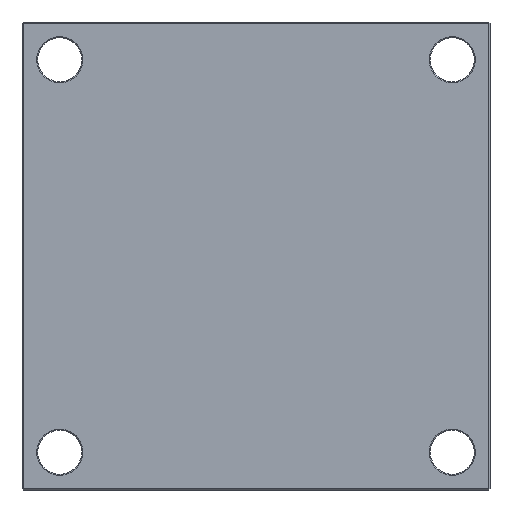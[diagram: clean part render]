
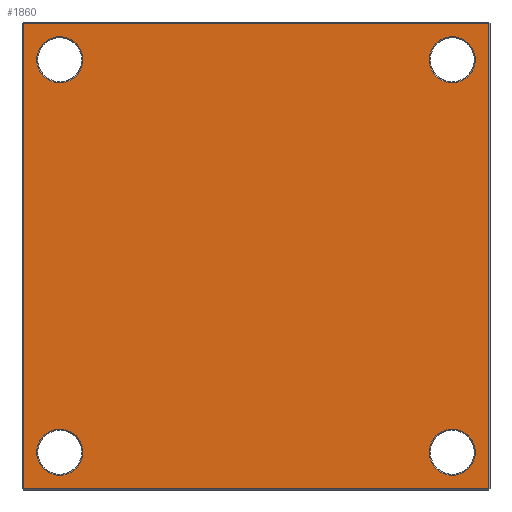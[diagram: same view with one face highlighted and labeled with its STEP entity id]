
A CAD part, front view. The second image highlights one B-rep face of the part: STEP entity #1860.
In plain terms, the highlighted planar face has unit normal (0, -1, 0).
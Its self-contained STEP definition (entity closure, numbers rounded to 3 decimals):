
#42 = AXIS2_PLACEMENT_3D ( 'NONE', #1561, #312, #382 ) ;
#59 = DIRECTION ( 'NONE',  ( 0., 0., 1. ) ) ;
#70 = VERTEX_POINT ( 'NONE', #680 ) ;
#105 = EDGE_LOOP ( 'NONE', ( #1662, #1757 ) ) ;
#134 = LINE ( 'NONE', #1093, #220 ) ;
#135 = EDGE_CURVE ( 'NONE', #861, #1630, #1424, .T. ) ;
#167 = DIRECTION ( 'NONE',  ( 0., 1., 0. ) ) ;
#177 = EDGE_CURVE ( 'NONE', #1219, #565, #1989, .T. ) ;
#220 = VECTOR ( 'NONE', #1154, 1000. ) ;
#235 = ORIENTED_EDGE ( 'NONE', *, *, #687, .T. ) ;
#237 = PLANE ( 'NONE',  #766 ) ;
#260 = CARTESIAN_POINT ( 'NONE',  ( 0., 0., 0. ) ) ;
#271 = DIRECTION ( 'NONE',  ( 0., 0., 1. ) ) ;
#300 = ORIENTED_EDGE ( 'NONE', *, *, #1357, .T. ) ;
#312 = DIRECTION ( 'NONE',  ( 0., 1., 0. ) ) ;
#363 = VERTEX_POINT ( 'NONE', #1949 ) ;
#368 = ORIENTED_EDGE ( 'NONE', *, *, #135, .T. ) ;
#380 = VERTEX_POINT ( 'NONE', #2015 ) ;
#382 = DIRECTION ( 'NONE',  ( 0., 0., 1. ) ) ;
#398 = VERTEX_POINT ( 'NONE', #2099 ) ;
#399 = VERTEX_POINT ( 'NONE', #1789 ) ;
#410 = CIRCLE ( 'NONE', #1693, 22. ) ;
#414 = CARTESIAN_POINT ( 'NONE',  ( -187., 0., -187. ) ) ;
#427 = EDGE_CURVE ( 'NONE', #398, #861, #881, .T. ) ;
#469 = CARTESIAN_POINT ( 'NONE',  ( -187., 0., 209. ) ) ;
#507 = DIRECTION ( 'NONE',  ( 0., 1., 0. ) ) ;
#511 = ORIENTED_EDGE ( 'NONE', *, *, #1319, .T. ) ;
#538 = EDGE_CURVE ( 'NONE', #399, #398, #134, .T. ) ;
#545 = CARTESIAN_POINT ( 'NONE',  ( 187., 0., 165. ) ) ;
#546 = VERTEX_POINT ( 'NONE', #1163 ) ;
#552 = FACE_BOUND ( 'NONE', #105, .T. ) ;
#562 = ORIENTED_EDGE ( 'NONE', *, *, #427, .T. ) ;
#565 = VERTEX_POINT ( 'NONE', #1200 ) ;
#570 = EDGE_LOOP ( 'NONE', ( #1270, #1351 ) ) ;
#590 = EDGE_CURVE ( 'NONE', #70, #1070, #1388, .T. ) ;
#608 = FACE_BOUND ( 'NONE', #570, .T. ) ;
#680 = CARTESIAN_POINT ( 'NONE',  ( 187., 0., 209. ) ) ;
#687 = EDGE_CURVE ( 'NONE', #1630, #399, #795, .T. ) ;
#692 = AXIS2_PLACEMENT_3D ( 'NONE', #1504, #1520, #1820 ) ;
#696 = CARTESIAN_POINT ( 'NONE',  ( 0., 0., -222. ) ) ;
#701 = CARTESIAN_POINT ( 'NONE',  ( -187., 0., 187. ) ) ;
#707 = FACE_OUTER_BOUND ( 'NONE', #1108, .T. ) ;
#724 = CARTESIAN_POINT ( 'NONE',  ( 222., 0., 0. ) ) ;
#745 = DIRECTION ( 'NONE',  ( 0., 0., 1. ) ) ;
#752 = VECTOR ( 'NONE', #745, 1000. ) ;
#758 = DIRECTION ( 'NONE',  ( 1., 0., 0. ) ) ;
#766 = AXIS2_PLACEMENT_3D ( 'NONE', #260, #167, #271 ) ;
#795 = LINE ( 'NONE', #1405, #1571 ) ;
#816 = EDGE_CURVE ( 'NONE', #380, #363, #1786, .T. ) ;
#824 = DIRECTION ( 'NONE',  ( 0., 1., 0. ) ) ;
#846 = DIRECTION ( 'NONE',  ( 0., 0., 1. ) ) ;
#861 = VERTEX_POINT ( 'NONE', #992 ) ;
#881 = LINE ( 'NONE', #696, #2078 ) ;
#919 = CARTESIAN_POINT ( 'NONE',  ( -187., 0., -187. ) ) ;
#928 = DIRECTION ( 'NONE',  ( 0., 1., 0. ) ) ;
#937 = AXIS2_PLACEMENT_3D ( 'NONE', #919, #928, #941 ) ;
#941 = DIRECTION ( 'NONE',  ( 0., 0., 1. ) ) ;
#992 = CARTESIAN_POINT ( 'NONE',  ( 222., 0., -222. ) ) ;
#993 = EDGE_CURVE ( 'NONE', #546, #1429, #1174, .T. ) ;
#1015 = FACE_BOUND ( 'NONE', #1947, .T. ) ;
#1070 = VERTEX_POINT ( 'NONE', #545 ) ;
#1093 = CARTESIAN_POINT ( 'NONE',  ( -222., 0., 0. ) ) ;
#1108 = EDGE_LOOP ( 'NONE', ( #368, #235, #1558, #562 ) ) ;
#1154 = DIRECTION ( 'NONE',  ( 0., 0., -1. ) ) ;
#1163 = CARTESIAN_POINT ( 'NONE',  ( 187., 0., -165. ) ) ;
#1165 = CARTESIAN_POINT ( 'NONE',  ( 222., 0., 222. ) ) ;
#1174 = CIRCLE ( 'NONE', #1193, 22. ) ;
#1191 = EDGE_CURVE ( 'NONE', #363, #380, #1634, .T. ) ;
#1193 = AXIS2_PLACEMENT_3D ( 'NONE', #1435, #1628, #1619 ) ;
#1200 = CARTESIAN_POINT ( 'NONE',  ( -187., 0., 165. ) ) ;
#1219 = VERTEX_POINT ( 'NONE', #469 ) ;
#1270 = ORIENTED_EDGE ( 'NONE', *, *, #1191, .T. ) ;
#1319 = EDGE_CURVE ( 'NONE', #565, #1219, #1358, .T. ) ;
#1351 = ORIENTED_EDGE ( 'NONE', *, *, #816, .T. ) ;
#1357 = EDGE_CURVE ( 'NONE', #1070, #70, #410, .T. ) ;
#1358 = CIRCLE ( 'NONE', #1641, 22. ) ;
#1388 = CIRCLE ( 'NONE', #692, 22. ) ;
#1405 = CARTESIAN_POINT ( 'NONE',  ( 0., 0., 222. ) ) ;
#1419 = EDGE_CURVE ( 'NONE', #1429, #546, #1651, .T. ) ;
#1424 = LINE ( 'NONE', #724, #752 ) ;
#1429 = VERTEX_POINT ( 'NONE', #1562 ) ;
#1435 = CARTESIAN_POINT ( 'NONE',  ( 187., 0., -187. ) ) ;
#1495 = AXIS2_PLACEMENT_3D ( 'NONE', #414, #507, #2103 ) ;
#1504 = CARTESIAN_POINT ( 'NONE',  ( 187., 0., 187. ) ) ;
#1520 = DIRECTION ( 'NONE',  ( 0., 1., 0. ) ) ;
#1558 = ORIENTED_EDGE ( 'NONE', *, *, #538, .T. ) ;
#1561 = CARTESIAN_POINT ( 'NONE',  ( -187., 0., 187. ) ) ;
#1562 = CARTESIAN_POINT ( 'NONE',  ( 187., 0., -209. ) ) ;
#1571 = VECTOR ( 'NONE', #1798, 1000. ) ;
#1574 = CARTESIAN_POINT ( 'NONE',  ( 187., 0., 187. ) ) ;
#1614 = DIRECTION ( 'NONE',  ( 0., 1., 0. ) ) ;
#1619 = DIRECTION ( 'NONE',  ( 0., 0., 1. ) ) ;
#1625 = DIRECTION ( 'NONE',  ( 0., 0., 1. ) ) ;
#1628 = DIRECTION ( 'NONE',  ( 0., 1., 0. ) ) ;
#1630 = VERTEX_POINT ( 'NONE', #1165 ) ;
#1634 = CIRCLE ( 'NONE', #1495, 22. ) ;
#1641 = AXIS2_PLACEMENT_3D ( 'NONE', #701, #824, #846 ) ;
#1651 = CIRCLE ( 'NONE', #1735, 22. ) ;
#1662 = ORIENTED_EDGE ( 'NONE', *, *, #1419, .T. ) ;
#1668 = ORIENTED_EDGE ( 'NONE', *, *, #177, .T. ) ;
#1681 = CARTESIAN_POINT ( 'NONE',  ( 187., 0., -187. ) ) ;
#1693 = AXIS2_PLACEMENT_3D ( 'NONE', #1574, #1614, #1625 ) ;
#1701 = DIRECTION ( 'NONE',  ( 0., 1., 0. ) ) ;
#1735 = AXIS2_PLACEMENT_3D ( 'NONE', #1681, #1701, #59 ) ;
#1757 = ORIENTED_EDGE ( 'NONE', *, *, #993, .T. ) ;
#1786 = CIRCLE ( 'NONE', #937, 22. ) ;
#1789 = CARTESIAN_POINT ( 'NONE',  ( -222., 0., 222. ) ) ;
#1798 = DIRECTION ( 'NONE',  ( -1., 0., 0. ) ) ;
#1820 = DIRECTION ( 'NONE',  ( 0., 0., 1. ) ) ;
#1848 = FACE_BOUND ( 'NONE', #2077, .T. ) ;
#1860 = ADVANCED_FACE ( 'NONE', ( #608, #552, #1848, #1015, #707 ), #237, .F. ) ;
#1947 = EDGE_LOOP ( 'NONE', ( #511, #1668 ) ) ;
#1949 = CARTESIAN_POINT ( 'NONE',  ( -187., 0., -209. ) ) ;
#1989 = CIRCLE ( 'NONE', #42, 22. ) ;
#2015 = CARTESIAN_POINT ( 'NONE',  ( -187., 0., -165. ) ) ;
#2061 = ORIENTED_EDGE ( 'NONE', *, *, #590, .T. ) ;
#2077 = EDGE_LOOP ( 'NONE', ( #300, #2061 ) ) ;
#2078 = VECTOR ( 'NONE', #758, 1000. ) ;
#2099 = CARTESIAN_POINT ( 'NONE',  ( -222., 0., -222. ) ) ;
#2103 = DIRECTION ( 'NONE',  ( 0., 0., 1. ) ) ;
